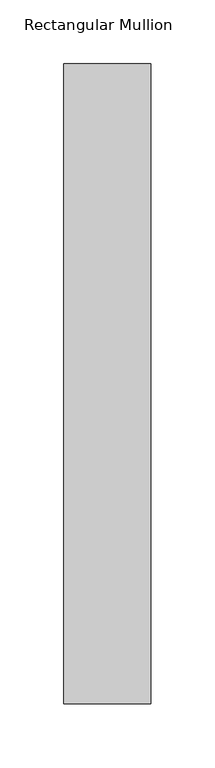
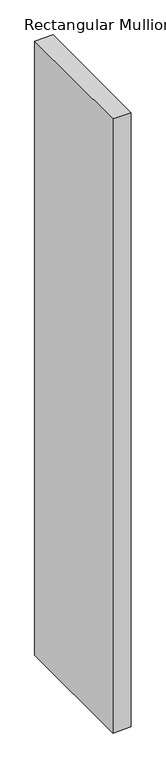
"""IFC4 building model written with IfcOpenShell, lengths in millimetres: member geometry, Rectangular Mullion : DucoSun Cubic Design louvre 500."""

from ifc_helpers import new_model, si_unit, frame, origin, place, context, project, spatial, polyline, outline, extrude, source, transform, mapped, element, save


def rectangular_mullion_0f70038a(model_context):
    return source(origin(), model_context, "Body", "SweptSolid", [
        extrude(outline(polyline([(0.0, 500.0), (0.0, 0.0), (-68.0, 0.0), (-68.0, 500.0), (0.0, 500.0)])), frame((0.0, 0.0, -2400.0), z_axis=(0.0, 0.0, 1.0), x_axis=(1.0, 0.0, 0.0)), (0.0, 0.0, 1.0), 2400.0),
    ])


if __name__ == "__main__":
    model = new_model("IFC4")
    model_context = context("Model", 3, world=origin())
    ifc_project = project(units=[si_unit("LENGTHUNIT", "METRE", prefix="MILLI")], contexts=[model_context])
    site = spatial("IfcSite", under=ifc_project)
    building = spatial("IfcBuilding", under=site)
    placement = place(None, origin())
    rectangular_mullion_shape = rectangular_mullion_0f70038a(model_context)
    element("IfcMember", 1, ObjectType="Rectangular Mullion : DucoSun Cubic Design louvre 500", at=placement, inside=building, context=model_context, shape_type="MappedRepresentation", body=[
        mapped(rectangular_mullion_shape, transform((0.0, 0.0, 0.0), x_axis=(1.0, 0.0, 0.0), y_axis=(0.0, 1.0, 0.0), z_axis=(0.0, 0.0, 1.0))),
    ])
    save(model, "model.ifc")
